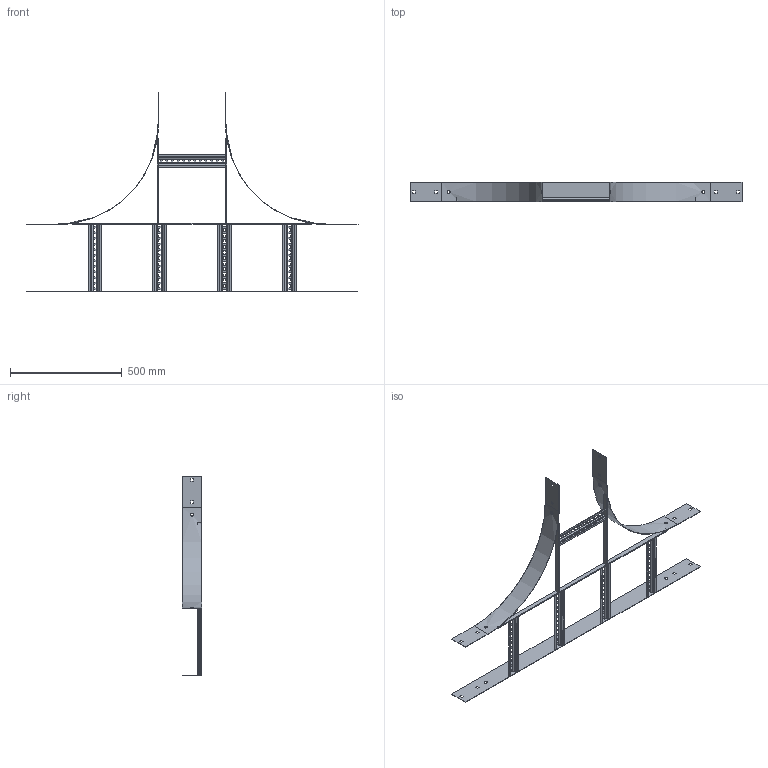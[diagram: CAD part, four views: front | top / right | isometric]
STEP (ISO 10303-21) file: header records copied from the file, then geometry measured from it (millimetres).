
FILE_DESCRIPTION (( 'STEP AP203' ), '1' );
FILE_NAME ('N2 T 3004.STEP', '2020-04-27T02:04:48', ( '' ), ( '' ), 'SwSTEP 2.0', 'SolidWorks 2020', '' );
FILE_SCHEMA (( 'CONFIG_CONTROL_DESIGN' ));
Length unit declared in the file: millimetre
Products named in the file (6): Ladder Tee 20x5 Flat Bar_1066; N2 RADIUS PLATE_N1-450 IR; Ladder Tee 20x5 Flat Bar_378; Ladder Rung_Ladder Rung -  300mm; N2 T 3004; N2 Back Plate_1500
Assembly tree (11 placements, depth 2):
  N2 T 3004
    N2 Back Plate_1500
    Ladder Rung_Ladder Rung -  300mm  x5
    Ladder Tee 20x5 Flat Bar_1066
    N2 RADIUS PLATE_N1-450 IR  x2
    Ladder Tee 20x5 Flat Bar_378  x2
Bounding box: 1485 x 87 x 894.5 mm (x, y, z)
Volume: 939960.3 mm3; surface area: 917415.5 mm2
Topology: 11 solids, 11 shells, 562 faces, 1444 edges, 904 vertices
Faces by surface type: plane 506, cylinder 56
Entity records: 6028 total; most frequent: CARTESIAN_POINT 1196, ORIENTED_EDGE 832, DIRECTION 788, EDGE_CURVE 416, VECTOR 380, LINE 380, VERTEX_POINT 264, EDGE_LOOP 208
